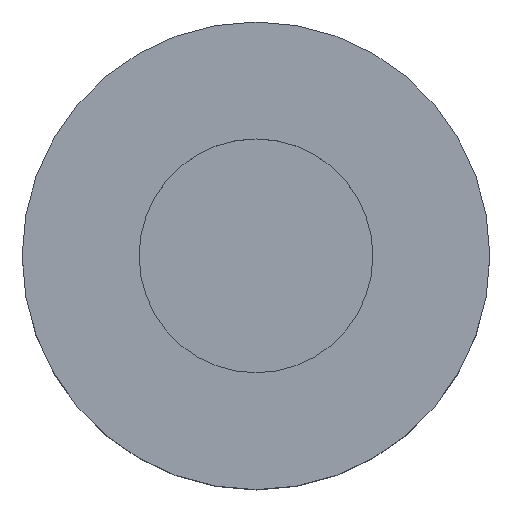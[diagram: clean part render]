
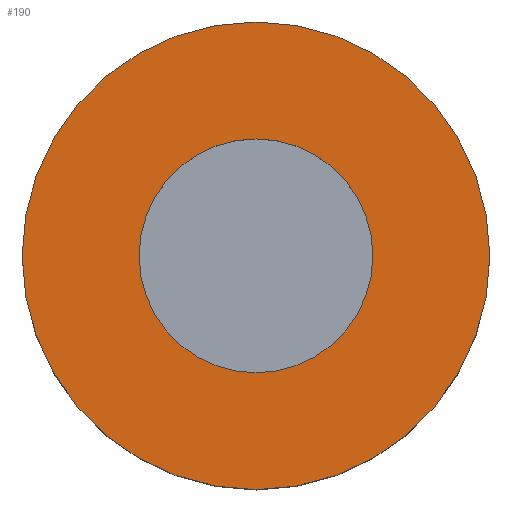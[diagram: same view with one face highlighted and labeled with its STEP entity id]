
A CAD part, top view. The second image highlights one B-rep face of the part: STEP entity #190.
In plain terms, the highlighted planar face has unit normal (0, 0, 1).
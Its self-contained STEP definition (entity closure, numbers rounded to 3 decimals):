
#19 = PLANE ( 'NONE',  #338 ) ;
#23 = VERTEX_POINT ( 'NONE', #235 ) ;
#34 = CIRCLE ( 'NONE', #290, 2.75 ) ;
#35 = ORIENTED_EDGE ( 'NONE', *, *, #143, .F. ) ;
#38 = DIRECTION ( 'NONE',  ( 0., 0., 1. ) ) ;
#48 = VERTEX_POINT ( 'NONE', #273 ) ;
#51 = CARTESIAN_POINT ( 'NONE',  ( 0., 0., 8.5 ) ) ;
#57 = DIRECTION ( 'NONE',  ( 0., 0., 1. ) ) ;
#60 = AXIS2_PLACEMENT_3D ( 'NONE', #85, #57, #178 ) ;
#66 = EDGE_LOOP ( 'NONE', ( #373, #35 ) ) ;
#81 = EDGE_CURVE ( 'NONE', #48, #120, #353, .T. ) ;
#85 = CARTESIAN_POINT ( 'NONE',  ( 0., 0., 8.5 ) ) ;
#94 = CARTESIAN_POINT ( 'NONE',  ( 0., 5.5, 8.5 ) ) ;
#96 = CARTESIAN_POINT ( 'NONE',  ( 0., 0., 8.5 ) ) ;
#100 = CIRCLE ( 'NONE', #333, 5.5 ) ;
#120 = VERTEX_POINT ( 'NONE', #94 ) ;
#130 = CARTESIAN_POINT ( 'NONE',  ( 2.75, 0., 8.5 ) ) ;
#133 = CARTESIAN_POINT ( 'NONE',  ( 0., 0., 8.5 ) ) ;
#143 = EDGE_CURVE ( 'NONE', #23, #212, #34, .T. ) ;
#155 = DIRECTION ( 'NONE',  ( 0., -1., 0. ) ) ;
#174 = DIRECTION ( 'NONE',  ( 0., 0., 1. ) ) ;
#177 = ORIENTED_EDGE ( 'NONE', *, *, #81, .T. ) ;
#178 = DIRECTION ( 'NONE',  ( 0., -1., 0. ) ) ;
#182 = DIRECTION ( 'NONE',  ( 0., 0., 1. ) ) ;
#190 = ADVANCED_FACE ( 'NONE', ( #223, #282 ), #19, .T. ) ;
#208 = EDGE_CURVE ( 'NONE', #212, #23, #217, .T. ) ;
#212 = VERTEX_POINT ( 'NONE', #276 ) ;
#215 = DIRECTION ( 'NONE',  ( 0., 0., 1. ) ) ;
#217 = CIRCLE ( 'NONE', #265, 2.75 ) ;
#220 = EDGE_LOOP ( 'NONE', ( #177, #298 ) ) ;
#223 = FACE_OUTER_BOUND ( 'NONE', #220, .T. ) ;
#235 = CARTESIAN_POINT ( 'NONE',  ( 0., 2.75, 8.5 ) ) ;
#251 = DIRECTION ( 'NONE',  ( 0., -1., 0. ) ) ;
#265 = AXIS2_PLACEMENT_3D ( 'NONE', #96, #215, #155 ) ;
#272 = EDGE_CURVE ( 'NONE', #120, #48, #100, .T. ) ;
#273 = CARTESIAN_POINT ( 'NONE',  ( 0., -5.5, 8.5 ) ) ;
#276 = CARTESIAN_POINT ( 'NONE',  ( 0., -2.75, 8.5 ) ) ;
#282 = FACE_BOUND ( 'NONE', #66, .T. ) ;
#290 = AXIS2_PLACEMENT_3D ( 'NONE', #133, #182, #305 ) ;
#298 = ORIENTED_EDGE ( 'NONE', *, *, #272, .T. ) ;
#305 = DIRECTION ( 'NONE',  ( 0., -1., 0. ) ) ;
#333 = AXIS2_PLACEMENT_3D ( 'NONE', #51, #174, #352 ) ;
#338 = AXIS2_PLACEMENT_3D ( 'NONE', #130, #38, #251 ) ;
#352 = DIRECTION ( 'NONE',  ( 0., -1., 0. ) ) ;
#353 = CIRCLE ( 'NONE', #60, 5.5 ) ;
#373 = ORIENTED_EDGE ( 'NONE', *, *, #208, .F. ) ;
